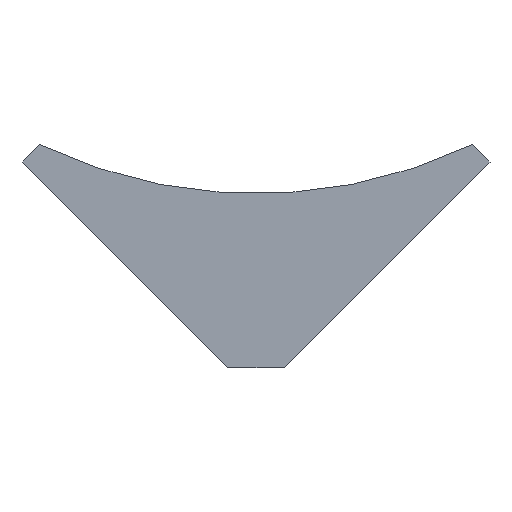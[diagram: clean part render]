
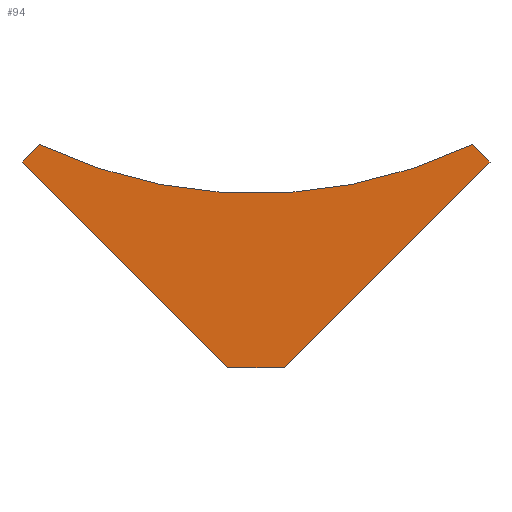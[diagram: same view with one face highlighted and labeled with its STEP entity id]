
A CAD part, front view. The second image highlights one B-rep face of the part: STEP entity #94.
In plain terms, the highlighted planar face has unit normal (0, -1, 0).
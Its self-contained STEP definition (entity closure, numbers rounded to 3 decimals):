
#4 = DIRECTION ( 'NONE',  ( 0., -1., 0. ) ) ;
#5 = ORIENTED_EDGE ( 'NONE', *, *, #251, .F. ) ;
#8 = EDGE_CURVE ( 'NONE', #98, #88, #218, .T. ) ;
#9 = ORIENTED_EDGE ( 'NONE', *, *, #8, .F. ) ;
#12 = CARTESIAN_POINT ( 'NONE',  ( 1.717, 747., 2. ) ) ;
#18 = DIRECTION ( 'NONE',  ( 0., 1., 0. ) ) ;
#24 = PLANE ( 'NONE',  #139 ) ;
#28 = CARTESIAN_POINT ( 'NONE',  ( 1.717, 747., 2. ) ) ;
#34 = DIRECTION ( 'NONE',  ( 0.707, 0., -0.707 ) ) ;
#36 = EDGE_CURVE ( 'NONE', #88, #121, #43, .T. ) ;
#43 = LINE ( 'NONE', #12, #120 ) ;
#47 = ORIENTED_EDGE ( 'NONE', *, *, #157, .F. ) ;
#52 = CIRCLE ( 'NONE', #195, 30.15 ) ;
#64 = EDGE_LOOP ( 'NONE', ( #5, #200, #9, #181, #47, #101 ) ) ;
#70 = LINE ( 'NONE', #132, #125 ) ;
#71 = VERTEX_POINT ( 'NONE', #161 ) ;
#77 = CARTESIAN_POINT ( 'NONE',  ( 0., 747., 42.639 ) ) ;
#88 = VERTEX_POINT ( 'NONE', #178 ) ;
#89 = CARTESIAN_POINT ( 'NONE',  ( 14.12, 747., 14.403 ) ) ;
#93 = DIRECTION ( 'NONE',  ( -1., 0., 0. ) ) ;
#94 = ADVANCED_FACE ( 'NONE', ( #231 ), #24, .F. ) ;
#98 = VERTEX_POINT ( 'NONE', #163 ) ;
#101 = ORIENTED_EDGE ( 'NONE', *, *, #230, .F. ) ;
#106 = DIRECTION ( 'NONE',  ( 0., 0., 1. ) ) ;
#108 = LINE ( 'NONE', #89, #228 ) ;
#111 = CARTESIAN_POINT ( 'NONE',  ( -1.717, 747., 2. ) ) ;
#112 = VERTEX_POINT ( 'NONE', #142 ) ;
#114 = DIRECTION ( 'NONE',  ( 0.707, 0., 0.707 ) ) ;
#117 = LINE ( 'NONE', #111, #244 ) ;
#120 = VECTOR ( 'NONE', #93, 1000. ) ;
#121 = VERTEX_POINT ( 'NONE', #180 ) ;
#125 = VECTOR ( 'NONE', #114, 1000. ) ;
#130 = VERTEX_POINT ( 'NONE', #237 ) ;
#132 = CARTESIAN_POINT ( 'NONE',  ( -14.12, 747., 14.403 ) ) ;
#139 = AXIS2_PLACEMENT_3D ( 'NONE', #77, #18, #179 ) ;
#142 = CARTESIAN_POINT ( 'NONE',  ( -14.12, 747., 14.403 ) ) ;
#152 = DIRECTION ( 'NONE',  ( -0.707, 0., 0.707 ) ) ;
#153 = DIRECTION ( 'NONE',  ( -0.707, 0., -0.707 ) ) ;
#157 = EDGE_CURVE ( 'NONE', #71, #130, #52, .T. ) ;
#161 = CARTESIAN_POINT ( 'NONE',  ( -13.06, 747., 15.464 ) ) ;
#163 = CARTESIAN_POINT ( 'NONE',  ( 14.12, 747., 14.403 ) ) ;
#169 = EDGE_CURVE ( 'NONE', #130, #98, #108, .T. ) ;
#178 = CARTESIAN_POINT ( 'NONE',  ( 1.717, 747., 2. ) ) ;
#179 = DIRECTION ( 'NONE',  ( 0., 0., 1. ) ) ;
#180 = CARTESIAN_POINT ( 'NONE',  ( -1.717, 747., 2. ) ) ;
#181 = ORIENTED_EDGE ( 'NONE', *, *, #169, .F. ) ;
#195 = AXIS2_PLACEMENT_3D ( 'NONE', #196, #4, #106 ) ;
#196 = CARTESIAN_POINT ( 'NONE',  ( 0., 747., 42.639 ) ) ;
#200 = ORIENTED_EDGE ( 'NONE', *, *, #36, .F. ) ;
#218 = LINE ( 'NONE', #28, #247 ) ;
#228 = VECTOR ( 'NONE', #34, 1000. ) ;
#230 = EDGE_CURVE ( 'NONE', #112, #71, #70, .T. ) ;
#231 = FACE_OUTER_BOUND ( 'NONE', #64, .T. ) ;
#237 = CARTESIAN_POINT ( 'NONE',  ( 13.06, 747., 15.464 ) ) ;
#244 = VECTOR ( 'NONE', #152, 1000. ) ;
#247 = VECTOR ( 'NONE', #153, 1000. ) ;
#251 = EDGE_CURVE ( 'NONE', #121, #112, #117, .T. ) ;
